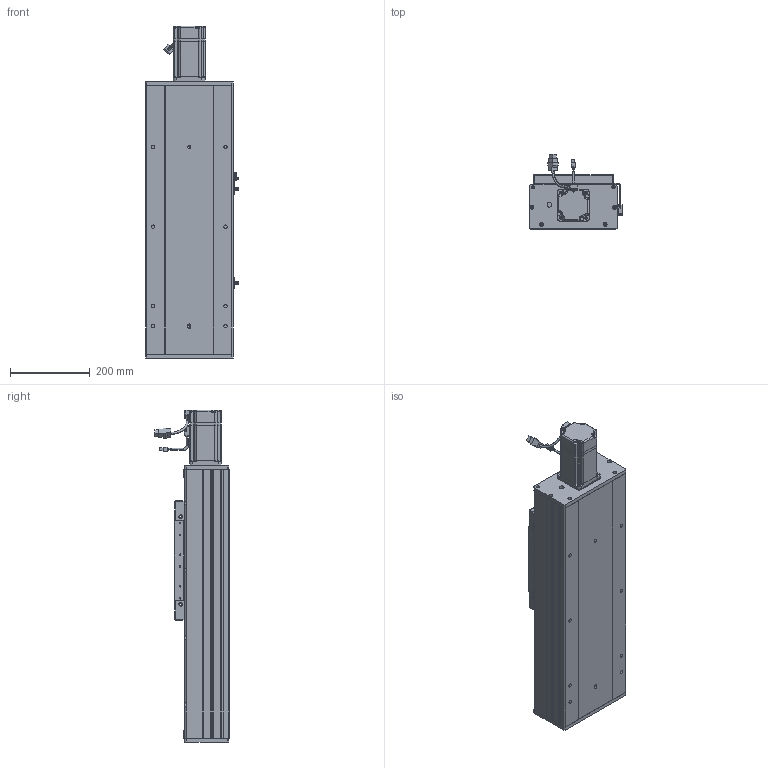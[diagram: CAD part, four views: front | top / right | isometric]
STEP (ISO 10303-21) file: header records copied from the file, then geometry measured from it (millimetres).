
FILE_DESCRIPTION (( 'STEP AP203' ), '1' );
FILE_NAME ('RY220F-L2525-300-MK.SLDASM_250.step', '2022-07-04T01:03:11', ( '' ), ( '' ), 'SwSTEP 2.0', 'SolidWorks 2016', '' );
FILE_SCHEMA (( 'CONFIG_CONTROL_DESIGN' ));
Length unit declared in the file: millimetre
Products named in the file (15): 滅袉蝶18-20; RY220F臏賑釱25-32佪裝; RY220电机支撑座FK20（PCD90M6）; RY220F綴裔啣; RY220F菁釱MK-300_250; RY220Fヶ裔啣; RY220F-奻裔啣-300_250; RY220F-滅鳥奻裔; 覜茼ん672; RY220F-詩湍揤踡輸; 滅袉蝶18-24; RY220F-L2525-300-MK.SLDASM_250; RY220F-672覜茼んえ; RY220F-祥凄詩湍-MK-300_250; 怢湛750W_ECMA-CX0807ES
Assembly tree (20 placements, depth 2):
  RY220F-L2525-300-MK.SLDASM_250
    RY220F菁釱MK-300_250
    RY220电机支撑座FK20（PCD90M6）
    RY220F-奻裔啣-300_250  x2
    怢湛750W_ECMA-CX0807ES
    RY220F臏賑釱25-32佪裝
    RY220F-滅鳥奻裔
    滅袉蝶18-20
    滅袉蝶18-24  x3
    RY220Fヶ裔啣
    RY220F綴裔啣
    RY220F-祥凄詩湍-MK-300_250
    RY220F-詩湍揤踡輸  x2
    覜茼ん672  x3
    RY220F-672覜茼んえ
Bounding box: 233.7 x 187.27 x 834.3 mm (x, y, z)
Volume: 8088599.4 mm3; surface area: 1918991.9 mm2
Topology: 21 solids, 21 shells, 2132 faces, 5870 edges, 3696 vertices
Faces by surface type: cylinder 948, plane 874, cone 251, bspline 33, sphere 16, torus 10
Entity records: 65586 total; most frequent: CARTESIAN_POINT 17947, ORIENTED_EDGE 9714, DIRECTION 9320, EDGE_CURVE 4857, AXIS2_PLACEMENT_3D 3288, VERTEX_POINT 3162, LINE 2744, VECTOR 2744
